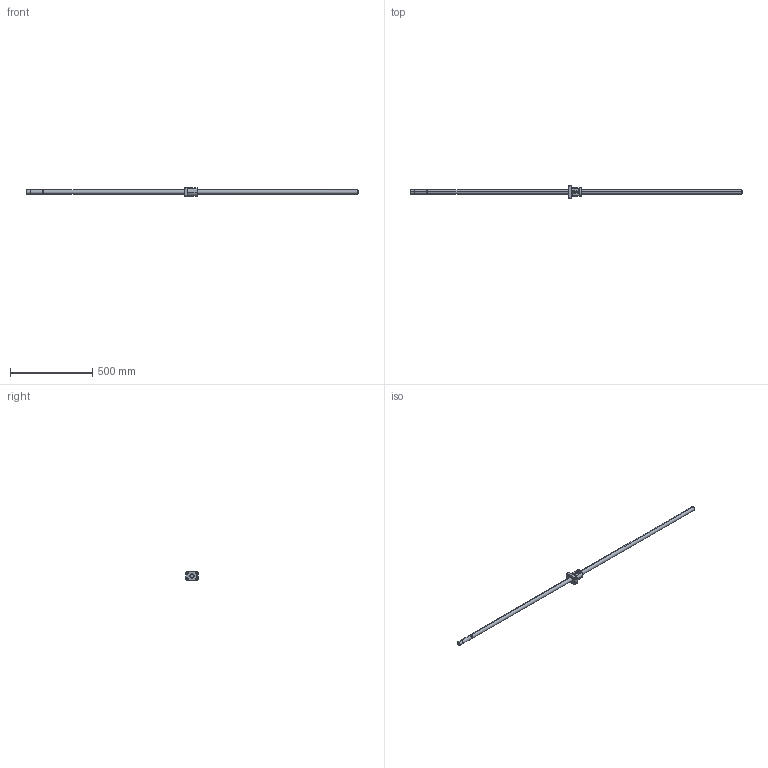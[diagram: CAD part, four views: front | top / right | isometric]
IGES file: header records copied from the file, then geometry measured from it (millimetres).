
Global section: file name: No Iges File Name specified; native system: AutoDesk Inventor R10; preprocessor: AutoDesk Inventor Iges Exporter R10; author: No Author specified; organization: No Organization specified; date: 20101224.142316; units: millimetre
Bounding box: 2020 x 78 x 54 mm (x, y, z)
Surface area: 190636.1 mm2 (no closed solid volume)
Topology: 0 solids, 0 shells, 136 faces, 988 edges, 986 vertices
Faces by surface type: bspline 136
